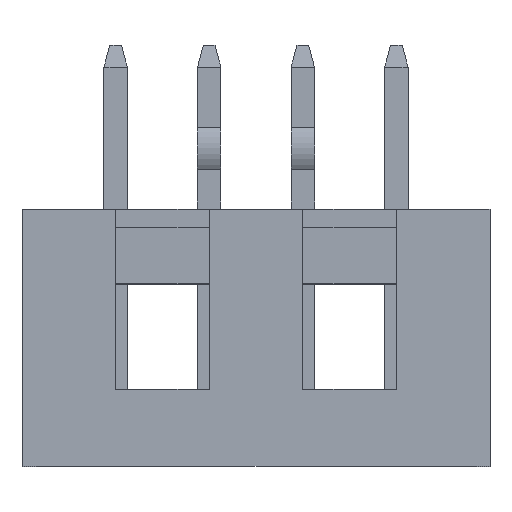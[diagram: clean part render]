
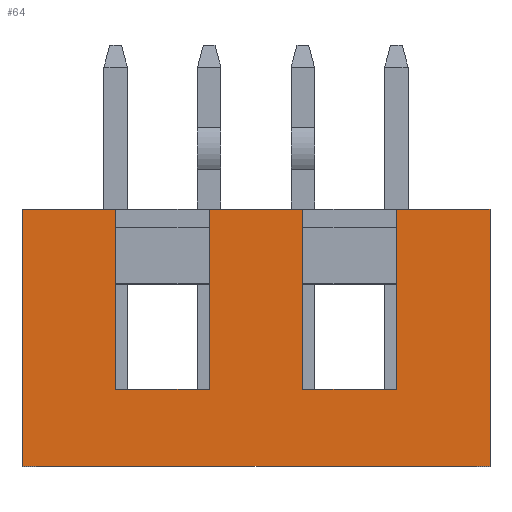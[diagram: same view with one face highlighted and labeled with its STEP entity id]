
A CAD part, top view. The second image highlights one B-rep face of the part: STEP entity #64.
In plain terms, the highlighted planar face has unit normal (0, 0, 1).
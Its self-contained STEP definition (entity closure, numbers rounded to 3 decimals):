
#64=ADVANCED_FACE('',(#300),#185,.F.);
#185=PLANE('',#2274);
#300=FACE_OUTER_BOUND('',#429,.T.);
#429=EDGE_LOOP('',(#640,#641,#642,#643,#644,#645,#646,#647,#648,#649,#650,
#651));
#640=ORIENTED_EDGE('',*,*,#1383,.F.);
#641=ORIENTED_EDGE('',*,*,#1446,.T.);
#642=ORIENTED_EDGE('',*,*,#1447,.F.);
#643=ORIENTED_EDGE('',*,*,#1448,.F.);
#644=ORIENTED_EDGE('',*,*,#1391,.F.);
#645=ORIENTED_EDGE('',*,*,#1449,.T.);
#646=ORIENTED_EDGE('',*,*,#1450,.T.);
#647=ORIENTED_EDGE('',*,*,#1451,.F.);
#648=ORIENTED_EDGE('',*,*,#1387,.F.);
#649=ORIENTED_EDGE('',*,*,#1452,.T.);
#650=ORIENTED_EDGE('',*,*,#1453,.T.);
#651=ORIENTED_EDGE('',*,*,#1454,.F.);
#1188=VERTEX_POINT('',#3019);
#1189=VERTEX_POINT('',#3021);
#1192=VERTEX_POINT('',#3027);
#1193=VERTEX_POINT('',#3029);
#1196=VERTEX_POINT('',#3035);
#1197=VERTEX_POINT('',#3037);
#1246=VERTEX_POINT('',#3144);
#1247=VERTEX_POINT('',#3146);
#1248=VERTEX_POINT('',#3149);
#1249=VERTEX_POINT('',#3151);
#1250=VERTEX_POINT('',#3154);
#1251=VERTEX_POINT('',#3156);
#1383=EDGE_CURVE('',#1188,#1189,#1692,.T.);
#1387=EDGE_CURVE('',#1192,#1193,#1696,.T.);
#1391=EDGE_CURVE('',#1196,#1197,#1700,.T.);
#1446=EDGE_CURVE('',#1188,#1246,#1755,.T.);
#1447=EDGE_CURVE('',#1247,#1246,#1756,.T.);
#1448=EDGE_CURVE('',#1197,#1247,#1757,.T.);
#1449=EDGE_CURVE('',#1196,#1248,#1758,.T.);
#1450=EDGE_CURVE('',#1248,#1249,#1759,.T.);
#1451=EDGE_CURVE('',#1193,#1249,#1760,.T.);
#1452=EDGE_CURVE('',#1192,#1250,#1761,.T.);
#1453=EDGE_CURVE('',#1250,#1251,#1762,.T.);
#1454=EDGE_CURVE('',#1189,#1251,#1763,.T.);
#1692=LINE('',#3020,#1993);
#1696=LINE('',#3028,#1997);
#1700=LINE('',#3036,#2001);
#1755=LINE('',#3143,#2056);
#1756=LINE('',#3145,#2057);
#1757=LINE('',#3147,#2058);
#1758=LINE('',#3148,#2059);
#1759=LINE('',#3150,#2060);
#1760=LINE('',#3152,#2061);
#1761=LINE('',#3153,#2062);
#1762=LINE('',#3155,#2063);
#1763=LINE('',#3157,#2064);
#1993=VECTOR('',#2436,1.);
#1997=VECTOR('',#2440,1.);
#2001=VECTOR('',#2444,1.);
#2056=VECTOR('',#2505,1.);
#2057=VECTOR('',#2506,1.);
#2058=VECTOR('',#2507,1.);
#2059=VECTOR('',#2508,1.);
#2060=VECTOR('',#2509,1.);
#2061=VECTOR('',#2510,1.);
#2062=VECTOR('',#2511,1.);
#2063=VECTOR('',#2512,1.);
#2064=VECTOR('',#2513,1.);
#2274=AXIS2_PLACEMENT_3D('',#3158,#2514,#2515);
#2436=DIRECTION('',(1.,0.,0.));
#2440=DIRECTION('',(1.,0.,0.));
#2444=DIRECTION('',(1.,0.,0.));
#2505=DIRECTION('',(0.,-1.,0.));
#2506=DIRECTION('',(1.,0.,0.));
#2507=DIRECTION('',(0.,-1.,0.));
#2508=DIRECTION('',(0.,-1.,0.));
#2509=DIRECTION('',(1.,0.,0.));
#2510=DIRECTION('',(0.,-1.,0.));
#2511=DIRECTION('',(0.,-1.,0.));
#2512=DIRECTION('',(-1.,0.,0.));
#2513=DIRECTION('',(0.,-1.,0.));
#2514=DIRECTION('',(0.,0.,-1.));
#2515=DIRECTION('',(-1.,0.,0.));
#3019=CARTESIAN_POINT('',(-1.,7.3,4.05));
#3020=CARTESIAN_POINT('',(5.,7.3,4.05));
#3021=CARTESIAN_POINT('',(1.,7.3,4.05));
#3027=CARTESIAN_POINT('',(3.,7.3,4.05));
#3028=CARTESIAN_POINT('',(5.,7.3,4.05));
#3029=CARTESIAN_POINT('',(5.,7.3,4.05));
#3035=CARTESIAN_POINT('',(-5.,7.3,4.05));
#3036=CARTESIAN_POINT('',(5.,7.3,4.05));
#3037=CARTESIAN_POINT('',(-3.,7.3,4.05));
#3143=CARTESIAN_POINT('',(-1.,7.3,4.05));
#3144=CARTESIAN_POINT('',(-1.,3.45,4.05));
#3145=CARTESIAN_POINT('',(-3.,3.45,4.05));
#3146=CARTESIAN_POINT('',(-3.,3.45,4.05));
#3147=CARTESIAN_POINT('',(-3.,7.3,4.05));
#3148=CARTESIAN_POINT('',(-5.,1.8,4.05));
#3149=CARTESIAN_POINT('',(-5.,1.8,4.05));
#3150=CARTESIAN_POINT('',(5.,1.8,4.05));
#3151=CARTESIAN_POINT('',(5.,1.8,4.05));
#3152=CARTESIAN_POINT('',(5.,1.8,4.05));
#3153=CARTESIAN_POINT('',(3.,7.3,4.05));
#3154=CARTESIAN_POINT('',(3.,3.45,4.05));
#3155=CARTESIAN_POINT('',(3.,3.45,4.05));
#3156=CARTESIAN_POINT('',(1.,3.45,4.05));
#3157=CARTESIAN_POINT('',(1.,7.3,4.05));
#3158=CARTESIAN_POINT('',(5.,1.8,4.05));
